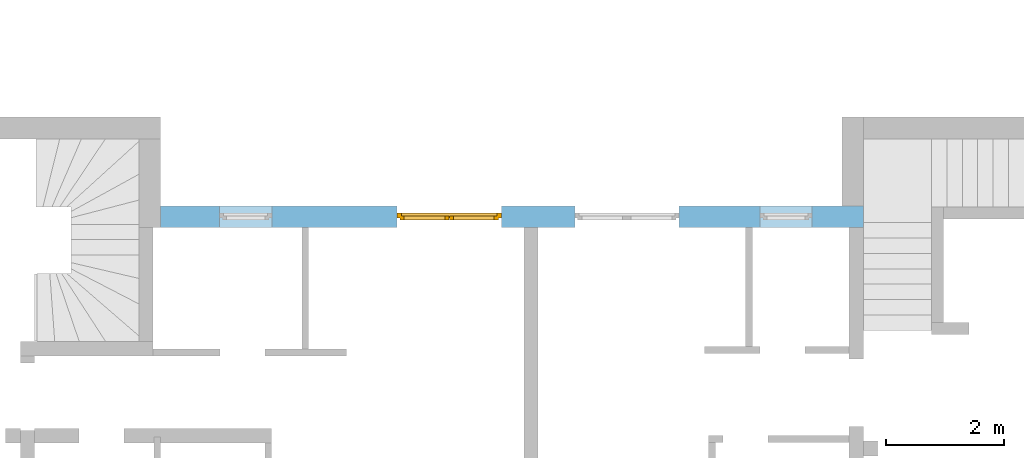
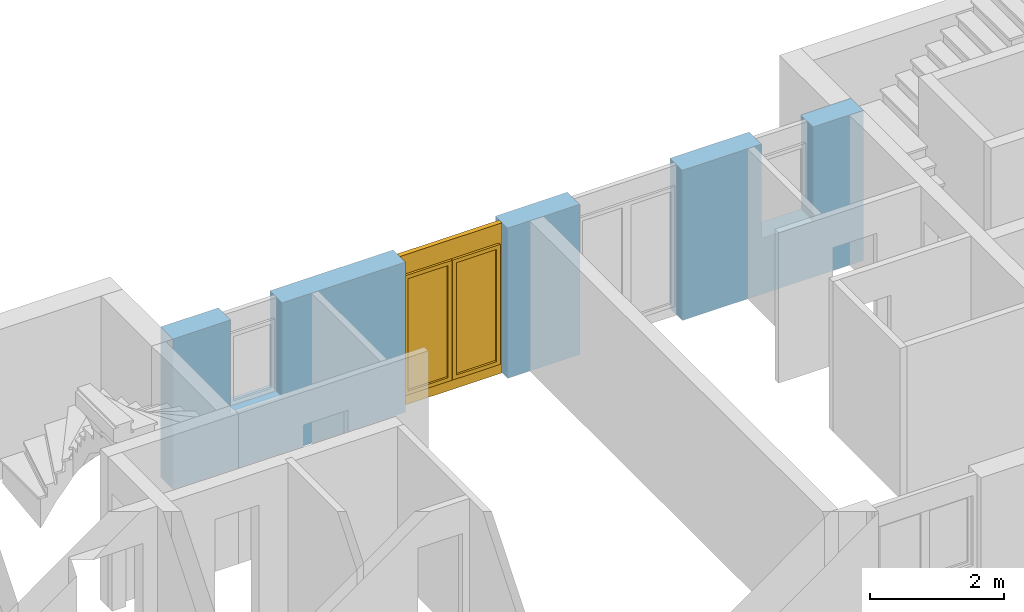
# One storey, part 33 of 41: 1 window, 4 openings, plus 1 element that does not belong to this part.
"""IFC2X3 building model written with IfcOpenShell, lengths in millimetres."""

import ifcopenshell
import ifcopenshell.guid

model = None  # the IFC model being written
_history = None  # IfcOwnerHistory: only IFC2X3 demands one
_inside = {}  # id of a spatial element -> (the spatial element, [elements in it])
_under = {}  # id of a project, library or spatial element -> (it, [spatial elements below it])
_declared = {}  # id of a project -> (the project, [libraries it declares])
_typed = {}  # id of a type object -> (the type object, [elements of that type])
_made_of = {}  # id of a material, layer set ... -> (it, [elements and type objects made of it])


def new_model(schema):
    """Start an empty IFC model of exactly this schema.

    Asked for "IFC4X3", IfcOpenShell would pick the latest addendum, in which some entities
    have other attributes; the version numbers below select the first issue.
    IFC2X3 requires an IfcOwnerHistory on every rooted entity: one is made here for all.
    """
    global model, _history
    if schema == "IFC4X3":
        model = ifcopenshell.file(schema_version=(4, 3, 0, 0))
    else:
        model = ifcopenshell.file(schema=schema)
    _inside.clear()
    _under.clear()
    _declared.clear()
    _typed.clear()
    _made_of.clear()
    _history = None
    if model.schema == "IFC2X3":
        org = make("IfcOrganization", Name="unknown")
        user = make(
            "IfcPersonAndOrganization",
            ThePerson=make("IfcPerson", FamilyName="unknown"),
            TheOrganization=org,
        )
        app = make(
            "IfcApplication",
            ApplicationDeveloper=org,
            Version="unknown",
            ApplicationFullName="unknown",
            ApplicationIdentifier="unknown",
        )
        _history = make(
            "IfcOwnerHistory",
            OwningUser=user,
            OwningApplication=app,
            ChangeAction="ADDED",
            CreationDate=0,
        )
    return model


def make(cls, **values):
    """One entity of the class cls with the attributes given. An attribute that is None is left unset."""
    return model.create_entity(
        cls, **{name: value for name, value in values.items() if value is not None}
    )


def entity(cls, *values):
    """Any entity or typed value of the class cls, its attributes in the order of the schema. None: left unset."""
    e = model.create_entity(cls)
    for i, value in enumerate(values):
        if value is not None:
            e[i] = value
    return e


def rooted(cls, **values):
    """An entity with a GlobalId (a new one), such as an element, a storey or a relation."""
    return make(cls, GlobalId=ifcopenshell.guid.new(), OwnerHistory=_history, **values)


def si_unit(unit_type, name, prefix=None):
    """IfcSIUnit, for example si_unit("LENGTHUNIT", "METRE", prefix="MILLI")."""
    return make("IfcSIUnit", UnitType=unit_type, Prefix=prefix, Name=name)


def converted_unit(unit_type, name, factor, base, dimensions=None, offset=None):
    """IfcConversionBasedUnit, such as the inch: factor (a typed value) times the base unit."""
    return make(
        "IfcConversionBasedUnit"
        if offset is None
        else "IfcConversionBasedUnitWithOffset",
        ConversionOffset=offset,
        Dimensions=None
        if dimensions is None
        else entity("IfcDimensionalExponents", *dimensions),
        UnitType=unit_type,
        Name=name,
        ConversionFactor=make(
            "IfcMeasureWithUnit", ValueComponent=factor, UnitComponent=base
        ),
    )


def assignment(units):
    """IfcUnitAssignment: the units of a project."""
    return None if units is None else make("IfcUnitAssignment", Units=units)


def point(xyz):
    """IfcCartesianPoint."""
    return None if xyz is None else make("IfcCartesianPoint", Coordinates=xyz)


def direction(xyz):
    """IfcDirection."""
    return None if xyz is None else make("IfcDirection", DirectionRatios=xyz)


def frame(location, z_axis=None, x_axis=None):
    """IfcAxis2Placement3D, a coordinate frame: its origin and axes. An axis left out is left unset."""
    return make(
        "IfcAxis2Placement3D",
        Location=point(location),
        Axis=direction(z_axis),
        RefDirection=direction(x_axis),
    )


def frame_2d(location, x_axis=None):
    """IfcAxis2Placement2D, a coordinate frame in the plane: its origin and x axis."""
    return make(
        "IfcAxis2Placement2D", Location=point(location), RefDirection=direction(x_axis)
    )


def origin():
    """The frame at (0, 0, 0) with its axes left unset."""
    return frame((0.0, 0.0, 0.0))


def origin_with_axes():
    """The frame at (0, 0, 0) with the z axis (0, 0, 1) and the x axis (1, 0, 0) written out."""
    return frame((0.0, 0.0, 0.0), z_axis=(0.0, 0.0, 1.0), x_axis=(1.0, 0.0, 0.0))


def place(relative_to, where):
    """IfcLocalPlacement: puts the frame where relative to a parent placement (None: the world)."""
    return make(
        "IfcLocalPlacement", PlacementRelTo=relative_to, RelativePlacement=where
    )


def context(
    kind, dimensions, precision=None, world=None, true_north=None, identifier=None
):
    """IfcGeometricRepresentationContext, for example the 3D "Model" context."""
    return make(
        "IfcGeometricRepresentationContext",
        ContextIdentifier=identifier,
        ContextType=kind,
        CoordinateSpaceDimension=dimensions,
        Precision=precision,
        WorldCoordinateSystem=world,
        TrueNorth=true_north,
    )


def subcontext(parent, identifier, kind, view, scale=None):
    """IfcGeometricRepresentationSubContext, for example "Body" below "Model"."""
    return make(
        "IfcGeometricRepresentationSubContext",
        ContextIdentifier=identifier,
        ContextType=kind,
        ParentContext=parent,
        TargetScale=scale,
        TargetView=view,
    )


def project(units=None, contexts=None):
    """IfcProject with its units and contexts."""
    return rooted(
        "IfcProject",
        Name="project",
        RepresentationContexts=contexts,
        UnitsInContext=assignment(units),
    )


def spatial(cls, under=None, at=None, **own):
    """A site, building, storey or space (cls), placed at a placement, below another one or the project."""
    s = rooted(cls, ObjectPlacement=at, **own)
    if under is not None:
        _under.setdefault(under.id(), (under, []))[1].append(s)
    return s


def profile(cls, at=None, kind="AREA", **sizes):
    """A parametric profile (cls). Its sizes go by their IFC names, for example OverallWidth=200.0."""
    return make(cls, ProfileType=kind, Position=at, **sizes)


def rectangle(**sizes):
    """IfcRectangleProfileDef."""
    return profile("IfcRectangleProfileDef", **sizes)


def extrude(swept, where, along, depth):
    """IfcExtrudedAreaSolid: the profile swept, set in the frame where, extruded along a direction by depth."""
    return make(
        "IfcExtrudedAreaSolid",
        SweptArea=swept,
        Position=where,
        ExtrudedDirection=direction(along),
        Depth=depth,
    )


def faces_of(points, faces, orient=None, outer=None):
    """IfcFace entities. A face is a list of loops; a loop is a list of indices into points, from 0.

    orient and outer hold one flag for each loop. By default every Orientation is true, the
    first loop of a face is its IfcFaceOuterBound and the others are IfcFaceBound.
    """
    made = []
    for i, loops in enumerate(faces):
        bounds = []
        for j, loop in enumerate(loops):
            is_outer = j == 0 if outer is None else outer[i][j]
            bounds.append(
                make(
                    "IfcFaceOuterBound" if is_outer else "IfcFaceBound",
                    Bound=make("IfcPolyLoop", Polygon=[points[k] for k in loop]),
                    Orientation=True if orient is None else orient[i][j],
                )
            )
        made.append(make("IfcFace", Bounds=bounds))
    return made


def faceted_brep(points, faces, orient=None, outer=None, voids=None):
    """IfcFacetedBrep: a solid bounded by flat faces; with voids (closed shells), ...WithVoids."""
    shared = [point(p) for p in points]
    hull = make("IfcClosedShell", CfsFaces=faces_of(shared, faces, orient, outer))
    if voids is None:
        return make("IfcFacetedBrep", Outer=hull)
    return make(
        "IfcFacetedBrepWithVoids",
        Outer=hull,
        Voids=[
            make(cls, CfsFaces=faces_of(shared, fs, o, b)) for cls, fs, o, b in voids
        ],
    )


def shape(context_of_items, identifier, shape_type, items):
    """IfcShapeRepresentation: the items that make up one representation, for example the "Body"."""
    return make(
        "IfcShapeRepresentation",
        ContextOfItems=context_of_items,
        RepresentationIdentifier=identifier,
        RepresentationType=shape_type,
        Items=items,
    )


def material(Name=None, Category=None):
    """IfcMaterial."""
    return make("IfcMaterial", Name=Name, Category=Category)


def layer(
    of_material, thickness, ventilated=None, Name=None, Category=None, Priority=None
):
    """IfcMaterialLayer: one layer of a wall or slab, of a material (None: an air gap)."""
    return make(
        "IfcMaterialLayer",
        Material=of_material,
        LayerThickness=thickness,
        IsVentilated=ventilated,
        Name=Name,
        Category=Category,
        Priority=Priority,
    )


def layer_set(layers, Name=None):
    """IfcMaterialLayerSet."""
    return make("IfcMaterialLayerSet", MaterialLayers=layers, LayerSetName=Name)


def layer_usage(for_layer_set, set_direction, sense, offset, extent=None):
    """IfcMaterialLayerSetUsage: how a layer set lies in its element."""
    return make(
        "IfcMaterialLayerSetUsage",
        ForLayerSet=for_layer_set,
        LayerSetDirection=set_direction,
        DirectionSense=sense,
        OffsetFromReferenceLine=offset,
        ReferenceExtent=extent,
    )


def made_of(thing, what):
    """Note that an element or type object is made of a material, layer set ...; save() writes the relation."""
    if what is not None:
        _made_of.setdefault(what.id(), (what, []))[1].append(thing)
    return thing


def type_object(cls, material=None, **own):
    """A type object (cls), such as IfcWallType, which elements share."""
    return made_of(rooted(cls, **own), material)


def element(
    cls,
    number,
    at=None,
    inside=None,
    cuts=None,
    type_object=None,
    material=None,
    context=None,
    identifier="Body",
    shape_type=None,
    held_by="IfcProductDefinitionShape",
    body=None,
    shapes=None,
    **own,
):
    """One element of the class cls, such as IfcWall. Its Tag is "e" and its number.

    at: its placement. inside: the storey or other place that contains it. cuts: it is an
    opening in that element (IfcRelVoidsElement). A single representation is given by context,
    identifier, shape_type and body (its items); several are given by shapes. held_by: the class
    of the entity that holds the representations. save() writes the other relations.
    """
    e = rooted(cls, Tag="e%d" % number, ObjectPlacement=at, **own)
    if body is not None:
        shapes = [shape(context, identifier, shape_type, body)]
    if shapes is not None:
        e.Representation = make(held_by, Representations=shapes)
    if inside is not None:
        _inside.setdefault(inside.id(), (inside, []))[1].append(e)
    if cuts is not None:
        rooted(
            "IfcRelVoidsElement", RelatingBuildingElement=cuts, RelatedOpeningElement=e
        )
    if type_object is not None:
        _typed.setdefault(type_object.id(), (type_object, []))[1].append(e)
    return made_of(e, material)


def fill(opening, filler):
    """IfcRelFillsElement: the door or window that sits in an opening."""
    return rooted(
        "IfcRelFillsElement",
        RelatingOpeningElement=opening,
        RelatedBuildingElement=filler,
    )


def aggregate(whole, parts):
    """IfcRelAggregates: a whole, such as a stair, and the parts it consists of."""
    return rooted("IfcRelAggregates", RelatingObject=whole, RelatedObjects=parts)


def save(model, path):
    """Write the relations noted so far, then the file.

    IfcRelAggregates (storeys below a building ...), IfcRelContainedInSpatialStructure (elements
    in a storey), IfcRelDefinesByType, IfcRelAssociatesMaterial and IfcRelDeclares: one each for
    every whole, place, type object, material and project.
    """
    for whole, parts in _under.values():
        aggregate(whole, parts)
    for where, things in _inside.values():
        rooted(
            "IfcRelContainedInSpatialStructure",
            RelatedElements=things,
            RelatingStructure=where,
        )
    for kind, things in _typed.values():
        rooted("IfcRelDefinesByType", RelatedObjects=things, RelatingType=kind)
    for what, things in _made_of.values():
        rooted("IfcRelAssociatesMaterial", RelatedObjects=things, RelatingMaterial=what)
    for by, libraries in _declared.values():
        rooted("IfcRelDeclares", RelatingContext=by, RelatedDefinitions=libraries)
    model.write(path)


model = new_model("IFC2X3")

# Units and contexts
model_context = context("Model", 3, precision=1e-05, world=origin())
body_context = subcontext(model_context, "Body", "Model", "MODEL_VIEW")
ifc_project = project(units=[si_unit("LENGTHUNIT", "METRE", prefix="MILLI"), converted_unit("PLANEANGLEUNIT", "DEGREE", entity("IfcPlaneAngleMeasure", 0.0174532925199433), si_unit("PLANEANGLEUNIT", "RADIAN"), dimensions=[0, 0, 0, 0, 0, 0, 0]), si_unit("AREAUNIT", "SQUARE_METRE"), si_unit("VOLUMEUNIT", "CUBIC_METRE")], contexts=[model_context])

# Building, storey
building_placement = place(None, origin())
building = spatial("IfcBuilding", under=ifc_project, at=building_placement, Name="Gebäude", CompositionType="ELEMENT")
storey_placement = place(building_placement, frame((0.0, 0.0, -200.0), z_axis=(0.0, 0.0, 1.0), x_axis=(1.0, 0.0, 0.0)))
storey = spatial("IfcBuildingStorey", under=building, at=storey_placement, Name="EG.- Grundriss", CompositionType="ELEMENT", Elevation=-200.0)

# Wall, openings, window
ifc_material_1 = material(Name="Poroton")
ifc_layer = layer(ifc_material_1, 365.0000000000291)
ifc_layer_set = layer_set([ifc_layer])
ifc_layer_usage = layer_usage(ifc_layer_set, "AXIS2", "POSITIVE", 0.0)
wall_placement = place(storey_placement, frame((176237.7928067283, 134774.8877324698, 0.0), z_axis=(0.0, 0.0, 1.0), x_axis=(-1.0, 0.0, 0.0)))
wall = element("IfcWallStandardCase", 1, at=wall_placement, inside=storey, material=ifc_layer_usage, Name="<Unnamed Element>", context=body_context, shape_type="SweptSolid", body=[
    extrude(rectangle(XDim=11869.99999999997, YDim=365.0000000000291, at=frame_2d((5934.999999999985, 182.5000000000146), x_axis=(1.0, 0.0))), origin_with_axes(), (0.0, 0.0, 1.0), 2730.0),
])
opening_1_placement = place(wall_placement, frame((9990.00000000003, 0.0, 1020.0), z_axis=(0.0, 1.0, 0.0), x_axis=(0.0, 0.0, 1.0)))
element("IfcOpeningElement", 2, at=opening_1_placement, cuts=wall, Name="Fensteröffnung", ObjectType="Opening", context=body_context, shape_type="SweptSolid", body=[
    extrude(rectangle(XDim=1710.0, YDim=885.0, at=frame_2d((855.0, 442.5), x_axis=(1.0, 0.0))), origin_with_axes(), (0.0, 0.0, 1.0), 365.0000000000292),
])
opening_2_placement = place(wall_placement, frame((6115.000000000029, 0.0, 0.0), z_axis=(0.0, 1.0, 0.0), x_axis=(0.0, 0.0, 1.0)))
opening_2 = element("IfcOpeningElement", 3, at=opening_2_placement, cuts=wall, Name="Fensteröffnung", ObjectType="Opening", context=body_context, shape_type="SweptSolid", body=[
    extrude(rectangle(XDim=2730.0, YDim=1760.0, at=frame_2d((1365.0, 880.0), x_axis=(1.0, 0.0))), origin_with_axes(), (0.0, 0.0, 1.0), 365.0000000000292),
])
opening_3_placement = place(wall_placement, frame((3115.000000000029, 0.0, 0.0), z_axis=(0.0, 1.0, 0.0), x_axis=(0.0, 0.0, 1.0)))
element("IfcOpeningElement", 4, at=opening_3_placement, cuts=wall, Name="Fensteröffnung", ObjectType="Opening", context=body_context, shape_type="SweptSolid", body=[
    extrude(rectangle(XDim=2730.0, YDim=1760.0, at=frame_2d((1365.0, 880.0), x_axis=(1.0, 0.0))), origin_with_axes(), (0.0, 0.0, 1.0), 365.0000000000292),
])
opening_4_placement = place(wall_placement, frame((865.0000000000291, 0.0, 1020.0), z_axis=(0.0, 1.0, 0.0), x_axis=(0.0, 0.0, 1.0)))
element("IfcOpeningElement", 5, at=opening_4_placement, cuts=wall, Name="Fensteröffnung", ObjectType="Opening", context=body_context, shape_type="SweptSolid", body=[
    extrude(rectangle(XDim=1710.0, YDim=885.0, at=frame_2d((855.0, 442.5), x_axis=(1.0, 0.0))), origin_with_axes(), (0.0, 0.0, 1.0), 365.0000000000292),
])
ifc_material_2 = material()
window_style = type_object("IfcWindowStyle", Name="Fenster", ConstructionType="NOTDEFINED", OperationType="USERDEFINED", ParameterTakesPrecedence=False, Sizeable=False)
window_placement = place(opening_2_placement, frame((0.0, 0.0, 0.0), z_axis=(1.0, 0.0, 0.0), x_axis=(0.0, 1.0, 0.0)))
window = element("IfcWindow", 6, at=window_placement, inside=storey, type_object=window_style, material=ifc_material_2, Name="Fenster", OverallHeight=2730.0, OverallWidth=1760.0, context=body_context, shape_type="Brep", body=[
    faceted_brep([(9.797174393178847e-15, 200.0000000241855, 2730.0), (9.797174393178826e-15, 200.0000000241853, -2.449293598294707e-15), (69.99999999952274, 200.0000000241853, -2.449293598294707e-15), (69.99999999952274, 200.0000000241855, 2730.0), (0.0, 120.0000000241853, 2.449293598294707e-15), (2.088393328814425e-29, 120.0000000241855, 2730.0), (69.99999999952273, 120.0000000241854, 2730.0), (69.99999999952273, 120.0000000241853, 2.449293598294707e-15), (9.797174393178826e-15, 200.0000000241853, -2.449293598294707e-15), (9.797174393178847e-15, 200.0000000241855, 2730.0), (2.088393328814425e-29, 120.0000000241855, 2730.0), (0.0, 120.0000000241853, 2.449293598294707e-15), (69.99999999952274, 200.0000000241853, -2.449293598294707e-15), (9.797174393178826e-15, 200.0000000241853, -2.449293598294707e-15), (0.0, 120.0000000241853, 2.449293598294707e-15), (69.99999999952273, 120.0000000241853, 2.449293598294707e-15), (69.99999999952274, 200.0000000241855, 2730.0), (69.99999999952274, 200.0000000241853, -2.449293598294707e-15), (69.99999999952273, 120.0000000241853, 2.449293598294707e-15), (69.99999999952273, 120.0000000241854, 2730.0), (9.797174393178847e-15, 200.0000000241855, 2730.0), (69.99999999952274, 200.0000000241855, 2730.0), (69.99999999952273, 120.0000000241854, 2730.0), (2.088393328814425e-29, 120.0000000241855, 2730.0)], [[[0, 1, 2, 3]], [[4, 5, 6, 7]], [[8, 9, 10, 11]], [[12, 13, 14, 15]], [[16, 17, 18, 19]], [[20, 21, 22, 23]]], orient=[[False], [False], [False], [False], [False], [False]]),
    faceted_brep([(1690.000000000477, 200.0000000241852, 2730.0), (1690.000000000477, 200.0000000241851, -2.449293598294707e-15), (1760.0, 200.0000000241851, -2.449293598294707e-15), (1760.0, 200.0000000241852, 2730.0), (1690.000000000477, 120.0000000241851, 2.449293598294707e-15), (1690.000000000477, 120.0000000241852, 2730.0), (1760.0, 120.0000000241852, 2730.0), (1760.0, 120.0000000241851, 2.449293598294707e-15), (1690.000000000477, 200.0000000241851, -2.449293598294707e-15), (1690.000000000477, 200.0000000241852, 2730.0), (1690.000000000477, 120.0000000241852, 2730.0), (1690.000000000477, 120.0000000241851, 2.449293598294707e-15), (1760.0, 200.0000000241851, -2.449293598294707e-15), (1690.000000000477, 200.0000000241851, -2.449293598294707e-15), (1690.000000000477, 120.0000000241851, 2.449293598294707e-15), (1760.0, 120.0000000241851, 2.449293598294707e-15), (1760.0, 200.0000000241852, 2730.0), (1760.0, 200.0000000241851, -2.449293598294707e-15), (1760.0, 120.0000000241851, 2.449293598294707e-15), (1760.0, 120.0000000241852, 2730.0), (1690.000000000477, 200.0000000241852, 2730.0), (1760.0, 200.0000000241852, 2730.0), (1760.0, 120.0000000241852, 2730.0), (1690.000000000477, 120.0000000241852, 2730.0)], [[[0, 1, 2, 3]], [[4, 5, 6, 7]], [[8, 9, 10, 11]], [[12, 13, 14, 15]], [[16, 17, 18, 19]], [[20, 21, 22, 23]]], orient=[[False], [False], [False], [False], [False], [False]]),
    faceted_brep([(69.99999999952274, 200.0000000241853, 220.0), (69.99999999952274, 200.0000000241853, -2.449293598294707e-15), (1690.000000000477, 200.0000000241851, -2.449293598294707e-15), (1690.000000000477, 200.0000000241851, 220.0), (69.99999999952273, 120.0000000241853, 2.449293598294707e-15), (69.99999999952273, 120.0000000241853, 220.0), (1690.000000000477, 120.0000000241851, 220.0), (1690.000000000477, 120.0000000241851, 2.449293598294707e-15), (69.99999999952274, 200.0000000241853, -2.449293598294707e-15), (69.99999999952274, 200.0000000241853, 220.0), (69.99999999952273, 120.0000000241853, 220.0), (69.99999999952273, 120.0000000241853, 2.449293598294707e-15), (1690.000000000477, 200.0000000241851, -2.449293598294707e-15), (69.99999999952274, 200.0000000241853, -2.449293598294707e-15), (69.99999999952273, 120.0000000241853, 2.449293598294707e-15), (1690.000000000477, 120.0000000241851, 2.449293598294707e-15), (1690.000000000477, 200.0000000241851, 220.0), (1690.000000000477, 200.0000000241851, -2.449293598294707e-15), (1690.000000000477, 120.0000000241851, 2.449293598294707e-15), (1690.000000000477, 120.0000000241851, 220.0), (69.99999999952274, 200.0000000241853, 220.0), (1690.000000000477, 200.0000000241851, 220.0), (1690.000000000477, 120.0000000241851, 220.0), (69.99999999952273, 120.0000000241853, 220.0)], [[[0, 1, 2, 3]], [[4, 5, 6, 7]], [[8, 9, 10, 11]], [[12, 13, 14, 15]], [[16, 17, 18, 19]], [[20, 21, 22, 23]]], orient=[[False], [False], [False], [False], [False], [False]]),
    faceted_brep([(69.99999999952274, 200.0000000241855, 2730.0), (69.99999999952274, 200.0000000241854, 2360.0), (1690.000000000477, 200.0000000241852, 2360.0), (1690.000000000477, 200.0000000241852, 2730.0), (69.99999999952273, 120.0000000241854, 2360.0), (69.99999999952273, 120.0000000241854, 2730.0), (1690.000000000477, 120.0000000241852, 2730.0), (1690.000000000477, 120.0000000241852, 2360.0), (69.99999999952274, 200.0000000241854, 2360.0), (69.99999999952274, 200.0000000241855, 2730.0), (69.99999999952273, 120.0000000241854, 2730.0), (69.99999999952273, 120.0000000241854, 2360.0), (1690.000000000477, 200.0000000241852, 2360.0), (69.99999999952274, 200.0000000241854, 2360.0), (69.99999999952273, 120.0000000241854, 2360.0), (1690.000000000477, 120.0000000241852, 2360.0), (1690.000000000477, 200.0000000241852, 2730.0), (1690.000000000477, 200.0000000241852, 2360.0), (1690.000000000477, 120.0000000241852, 2360.0), (1690.000000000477, 120.0000000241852, 2730.0), (69.99999999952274, 200.0000000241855, 2730.0), (1690.000000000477, 200.0000000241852, 2730.0), (1690.000000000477, 120.0000000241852, 2730.0), (69.99999999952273, 120.0000000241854, 2730.0)], [[[0, 1, 2, 3]], [[4, 5, 6, 7]], [[8, 9, 10, 11]], [[12, 13, 14, 15]], [[16, 17, 18, 19]], [[20, 21, 22, 23]]], orient=[[False], [False], [False], [False], [False], [False]]),
    faceted_brep([(49.99999999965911, 240.0000000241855, 2380.0), (49.99999999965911, 240.0000000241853, 200.0), (119.9999999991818, 240.0000000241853, 200.0), (119.9999999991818, 240.0000000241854, 2380.0), (49.9999999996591, 170.0000000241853, 200.0), (49.9999999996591, 170.0000000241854, 2380.0), (119.9999999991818, 170.0000000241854, 2380.0), (119.9999999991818, 170.0000000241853, 200.0), (49.99999999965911, 240.0000000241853, 200.0), (49.99999999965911, 240.0000000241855, 2380.0), (49.9999999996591, 170.0000000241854, 2380.0), (49.9999999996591, 170.0000000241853, 200.0), (119.9999999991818, 240.0000000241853, 200.0), (49.99999999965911, 240.0000000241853, 200.0), (49.9999999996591, 170.0000000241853, 200.0), (119.9999999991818, 170.0000000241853, 200.0), (119.9999999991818, 240.0000000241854, 2380.0), (119.9999999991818, 240.0000000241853, 200.0), (119.9999999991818, 170.0000000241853, 200.0), (119.9999999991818, 170.0000000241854, 2380.0), (49.99999999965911, 240.0000000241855, 2380.0), (119.9999999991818, 240.0000000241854, 2380.0), (119.9999999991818, 170.0000000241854, 2380.0), (49.9999999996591, 170.0000000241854, 2380.0)], [[[0, 1, 2, 3]], [[4, 5, 6, 7]], [[8, 9, 10, 11]], [[12, 13, 14, 15]], [[16, 17, 18, 19]], [[20, 21, 22, 23]]], orient=[[False], [False], [False], [False], [False], [False]]),
    faceted_brep([(809.5000000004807, 240.0000000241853, 2380.0), (809.5000000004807, 240.0000000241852, 200.0), (879.5000000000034, 240.0000000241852, 200.0), (879.5000000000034, 240.0000000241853, 2380.0), (809.5000000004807, 170.0000000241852, 200.0), (809.5000000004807, 170.0000000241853, 2380.0), (879.5000000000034, 170.0000000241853, 2380.0), (879.5000000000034, 170.0000000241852, 200.0), (809.5000000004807, 240.0000000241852, 200.0), (809.5000000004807, 240.0000000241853, 2380.0), (809.5000000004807, 170.0000000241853, 2380.0), (809.5000000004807, 170.0000000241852, 200.0), (879.5000000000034, 240.0000000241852, 200.0), (809.5000000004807, 240.0000000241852, 200.0), (809.5000000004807, 170.0000000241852, 200.0), (879.5000000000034, 170.0000000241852, 200.0), (879.5000000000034, 240.0000000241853, 2380.0), (879.5000000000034, 240.0000000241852, 200.0), (879.5000000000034, 170.0000000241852, 200.0), (879.5000000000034, 170.0000000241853, 2380.0), (809.5000000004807, 240.0000000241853, 2380.0), (879.5000000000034, 240.0000000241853, 2380.0), (879.5000000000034, 170.0000000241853, 2380.0), (809.5000000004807, 170.0000000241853, 2380.0)], [[[0, 1, 2, 3]], [[4, 5, 6, 7]], [[8, 9, 10, 11]], [[12, 13, 14, 15]], [[16, 17, 18, 19]], [[20, 21, 22, 23]]], orient=[[False], [False], [False], [False], [False], [False]]),
    faceted_brep([(119.9999999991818, 240.0000000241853, 270.0), (119.9999999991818, 240.0000000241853, 200.0), (809.5000000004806, 240.0000000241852, 200.0), (809.5000000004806, 240.0000000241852, 270.0), (119.9999999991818, 170.0000000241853, 200.0), (119.9999999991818, 170.0000000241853, 270.0), (809.5000000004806, 170.0000000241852, 270.0), (809.5000000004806, 170.0000000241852, 200.0), (119.9999999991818, 240.0000000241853, 200.0), (119.9999999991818, 240.0000000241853, 270.0), (119.9999999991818, 170.0000000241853, 270.0), (119.9999999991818, 170.0000000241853, 200.0), (809.5000000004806, 240.0000000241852, 200.0), (119.9999999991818, 240.0000000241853, 200.0), (119.9999999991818, 170.0000000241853, 200.0), (809.5000000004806, 170.0000000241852, 200.0), (809.5000000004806, 240.0000000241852, 270.0), (809.5000000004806, 240.0000000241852, 200.0), (809.5000000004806, 170.0000000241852, 200.0), (809.5000000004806, 170.0000000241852, 270.0), (119.9999999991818, 240.0000000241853, 270.0), (809.5000000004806, 240.0000000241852, 270.0), (809.5000000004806, 170.0000000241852, 270.0), (119.9999999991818, 170.0000000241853, 270.0)], [[[0, 1, 2, 3]], [[4, 5, 6, 7]], [[8, 9, 10, 11]], [[12, 13, 14, 15]], [[16, 17, 18, 19]], [[20, 21, 22, 23]]], orient=[[False], [False], [False], [False], [False], [False]]),
    faceted_brep([(119.9999999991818, 240.0000000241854, 2380.0), (119.9999999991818, 240.0000000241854, 2310.0), (809.5000000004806, 240.0000000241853, 2310.0), (809.5000000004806, 240.0000000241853, 2380.0), (119.9999999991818, 170.0000000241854, 2310.0), (119.9999999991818, 170.0000000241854, 2380.0), (809.5000000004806, 170.0000000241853, 2380.0), (809.5000000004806, 170.0000000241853, 2310.0), (119.9999999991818, 240.0000000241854, 2310.0), (119.9999999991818, 240.0000000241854, 2380.0), (119.9999999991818, 170.0000000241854, 2380.0), (119.9999999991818, 170.0000000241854, 2310.0), (809.5000000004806, 240.0000000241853, 2310.0), (119.9999999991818, 240.0000000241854, 2310.0), (119.9999999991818, 170.0000000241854, 2310.0), (809.5000000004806, 170.0000000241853, 2310.0), (809.5000000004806, 240.0000000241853, 2380.0), (809.5000000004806, 240.0000000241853, 2310.0), (809.5000000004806, 170.0000000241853, 2310.0), (809.5000000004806, 170.0000000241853, 2380.0), (119.9999999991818, 240.0000000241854, 2380.0), (809.5000000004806, 240.0000000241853, 2380.0), (809.5000000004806, 170.0000000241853, 2380.0), (119.9999999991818, 170.0000000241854, 2380.0)], [[[0, 1, 2, 3]], [[4, 5, 6, 7]], [[8, 9, 10, 11]], [[12, 13, 14, 15]], [[16, 17, 18, 19]], [[20, 21, 22, 23]]], orient=[[False], [False], [False], [False], [False], [False]]),
    faceted_brep([(880.4999999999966, 240.0000000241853, 2380.0), (880.4999999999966, 240.0000000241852, 200.0), (950.4999999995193, 240.0000000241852, 200.0), (950.4999999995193, 240.0000000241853, 2380.0), (880.4999999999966, 170.0000000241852, 200.0), (880.4999999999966, 170.0000000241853, 2380.0), (950.4999999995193, 170.0000000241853, 2380.0), (950.4999999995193, 170.0000000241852, 200.0), (880.4999999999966, 240.0000000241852, 200.0), (880.4999999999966, 240.0000000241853, 2380.0), (880.4999999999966, 170.0000000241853, 2380.0), (880.4999999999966, 170.0000000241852, 200.0), (950.4999999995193, 240.0000000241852, 200.0), (880.4999999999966, 240.0000000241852, 200.0), (880.4999999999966, 170.0000000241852, 200.0), (950.4999999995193, 170.0000000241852, 200.0), (950.4999999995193, 240.0000000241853, 2380.0), (950.4999999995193, 240.0000000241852, 200.0), (950.4999999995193, 170.0000000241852, 200.0), (950.4999999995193, 170.0000000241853, 2380.0), (880.4999999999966, 240.0000000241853, 2380.0), (950.4999999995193, 240.0000000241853, 2380.0), (950.4999999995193, 170.0000000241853, 2380.0), (880.4999999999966, 170.0000000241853, 2380.0)], [[[0, 1, 2, 3]], [[4, 5, 6, 7]], [[8, 9, 10, 11]], [[12, 13, 14, 15]], [[16, 17, 18, 19]], [[20, 21, 22, 23]]], orient=[[False], [False], [False], [False], [False], [False]]),
    faceted_brep([(1640.000000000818, 240.0000000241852, 2380.0), (1640.000000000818, 240.0000000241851, 200.0), (1710.000000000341, 240.0000000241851, 200.0), (1710.000000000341, 240.0000000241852, 2380.0), (1640.000000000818, 170.0000000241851, 200.0), (1640.000000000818, 170.0000000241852, 2380.0), (1710.000000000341, 170.0000000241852, 2380.0), (1710.000000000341, 170.0000000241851, 200.0), (1640.000000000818, 240.0000000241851, 200.0), (1640.000000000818, 240.0000000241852, 2380.0), (1640.000000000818, 170.0000000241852, 2380.0), (1640.000000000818, 170.0000000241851, 200.0), (1710.000000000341, 240.0000000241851, 200.0), (1640.000000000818, 240.0000000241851, 200.0), (1640.000000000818, 170.0000000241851, 200.0), (1710.000000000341, 170.0000000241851, 200.0), (1710.000000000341, 240.0000000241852, 2380.0), (1710.000000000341, 240.0000000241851, 200.0), (1710.000000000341, 170.0000000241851, 200.0), (1710.000000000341, 170.0000000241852, 2380.0), (1640.000000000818, 240.0000000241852, 2380.0), (1710.000000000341, 240.0000000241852, 2380.0), (1710.000000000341, 170.0000000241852, 2380.0), (1640.000000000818, 170.0000000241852, 2380.0)], [[[0, 1, 2, 3]], [[4, 5, 6, 7]], [[8, 9, 10, 11]], [[12, 13, 14, 15]], [[16, 17, 18, 19]], [[20, 21, 22, 23]]], orient=[[False], [False], [False], [False], [False], [False]]),
    faceted_brep([(950.4999999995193, 240.0000000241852, 270.0), (950.4999999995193, 240.0000000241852, 200.0), (1640.000000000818, 240.0000000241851, 200.0), (1640.000000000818, 240.0000000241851, 270.0), (950.4999999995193, 170.0000000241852, 200.0), (950.4999999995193, 170.0000000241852, 270.0), (1640.000000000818, 170.0000000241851, 270.0), (1640.000000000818, 170.0000000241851, 200.0), (950.4999999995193, 240.0000000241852, 200.0), (950.4999999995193, 240.0000000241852, 270.0), (950.4999999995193, 170.0000000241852, 270.0), (950.4999999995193, 170.0000000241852, 200.0), (1640.000000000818, 240.0000000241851, 200.0), (950.4999999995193, 240.0000000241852, 200.0), (950.4999999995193, 170.0000000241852, 200.0), (1640.000000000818, 170.0000000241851, 200.0), (1640.000000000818, 240.0000000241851, 270.0), (1640.000000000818, 240.0000000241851, 200.0), (1640.000000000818, 170.0000000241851, 200.0), (1640.000000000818, 170.0000000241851, 270.0), (950.4999999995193, 240.0000000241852, 270.0), (1640.000000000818, 240.0000000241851, 270.0), (1640.000000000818, 170.0000000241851, 270.0), (950.4999999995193, 170.0000000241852, 270.0)], [[[0, 1, 2, 3]], [[4, 5, 6, 7]], [[8, 9, 10, 11]], [[12, 13, 14, 15]], [[16, 17, 18, 19]], [[20, 21, 22, 23]]], orient=[[False], [False], [False], [False], [False], [False]]),
    faceted_brep([(950.4999999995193, 240.0000000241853, 2380.0), (950.4999999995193, 240.0000000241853, 2310.0), (1640.000000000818, 240.0000000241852, 2310.0), (1640.000000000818, 240.0000000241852, 2380.0), (950.4999999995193, 170.0000000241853, 2310.0), (950.4999999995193, 170.0000000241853, 2380.0), (1640.000000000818, 170.0000000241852, 2380.0), (1640.000000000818, 170.0000000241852, 2310.0), (950.4999999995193, 240.0000000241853, 2310.0), (950.4999999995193, 240.0000000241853, 2380.0), (950.4999999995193, 170.0000000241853, 2380.0), (950.4999999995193, 170.0000000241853, 2310.0), (1640.000000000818, 240.0000000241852, 2310.0), (950.4999999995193, 240.0000000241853, 2310.0), (950.4999999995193, 170.0000000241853, 2310.0), (1640.000000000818, 170.0000000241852, 2310.0), (1640.000000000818, 240.0000000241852, 2380.0), (1640.000000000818, 240.0000000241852, 2310.0), (1640.000000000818, 170.0000000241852, 2310.0), (1640.000000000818, 170.0000000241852, 2380.0), (950.4999999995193, 240.0000000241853, 2380.0), (1640.000000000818, 240.0000000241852, 2380.0), (1640.000000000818, 170.0000000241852, 2380.0), (950.4999999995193, 170.0000000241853, 2380.0)], [[[0, 1, 2, 3]], [[4, 5, 6, 7]], [[8, 9, 10, 11]], [[12, 13, 14, 15]], [[16, 17, 18, 19]], [[20, 21, 22, 23]]], orient=[[False], [False], [False], [False], [False], [False]]),
    faceted_brep([(119.9999999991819, 205.0000000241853, 270.0), (809.5000000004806, 205.0000000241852, 270.0), (809.5000000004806, 205.0000000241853, 2310.0), (119.9999999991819, 205.0000000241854, 2310.0), (119.9999999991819, 204.0000000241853, 270.0), (119.9999999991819, 204.0000000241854, 2310.0), (809.5000000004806, 204.0000000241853, 2310.0), (809.5000000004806, 204.0000000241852, 270.0), (119.9999999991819, 205.0000000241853, 270.0), (119.9999999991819, 204.0000000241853, 270.0), (809.5000000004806, 204.0000000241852, 270.0), (809.5000000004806, 205.0000000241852, 270.0), (809.5000000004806, 205.0000000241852, 270.0), (809.5000000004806, 204.0000000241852, 270.0), (809.5000000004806, 204.0000000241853, 2310.0), (809.5000000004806, 205.0000000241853, 2310.0), (809.5000000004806, 205.0000000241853, 2310.0), (809.5000000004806, 204.0000000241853, 2310.0), (119.9999999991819, 204.0000000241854, 2310.0), (119.9999999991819, 205.0000000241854, 2310.0), (119.9999999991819, 205.0000000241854, 2310.0), (119.9999999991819, 204.0000000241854, 2310.0), (119.9999999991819, 204.0000000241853, 270.0), (119.9999999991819, 205.0000000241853, 270.0)], [[[0, 1, 2, 3]], [[4, 5, 6, 7]], [[8, 9, 10, 11]], [[12, 13, 14, 15]], [[16, 17, 18, 19]], [[20, 21, 22, 23]]], orient=[[False], [False], [False], [False], [False], [False]]),
    faceted_brep([(950.4999999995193, 205.0000000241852, 270.0), (1640.000000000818, 205.0000000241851, 270.0), (1640.000000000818, 205.0000000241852, 2310.0), (950.4999999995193, 205.0000000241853, 2310.0), (950.4999999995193, 204.0000000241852, 270.0), (950.4999999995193, 204.0000000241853, 2310.0), (1640.000000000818, 204.0000000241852, 2310.0), (1640.000000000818, 204.0000000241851, 270.0), (950.4999999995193, 205.0000000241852, 270.0), (950.4999999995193, 204.0000000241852, 270.0), (1640.000000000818, 204.0000000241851, 270.0), (1640.000000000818, 205.0000000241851, 270.0), (1640.000000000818, 205.0000000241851, 270.0), (1640.000000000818, 204.0000000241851, 270.0), (1640.000000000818, 204.0000000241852, 2310.0), (1640.000000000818, 205.0000000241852, 2310.0), (1640.000000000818, 205.0000000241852, 2310.0), (1640.000000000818, 204.0000000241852, 2310.0), (950.4999999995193, 204.0000000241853, 2310.0), (950.4999999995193, 205.0000000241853, 2310.0), (950.4999999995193, 205.0000000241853, 2310.0), (950.4999999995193, 204.0000000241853, 2310.0), (950.4999999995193, 204.0000000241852, 270.0), (950.4999999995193, 205.0000000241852, 270.0)], [[[0, 1, 2, 3]], [[4, 5, 6, 7]], [[8, 9, 10, 11]], [[12, 13, 14, 15]], [[16, 17, 18, 19]], [[20, 21, 22, 23]]], orient=[[False], [False], [False], [False], [False], [False]]),
])
fill(opening_2, window)

save(model, "model.ifc")
